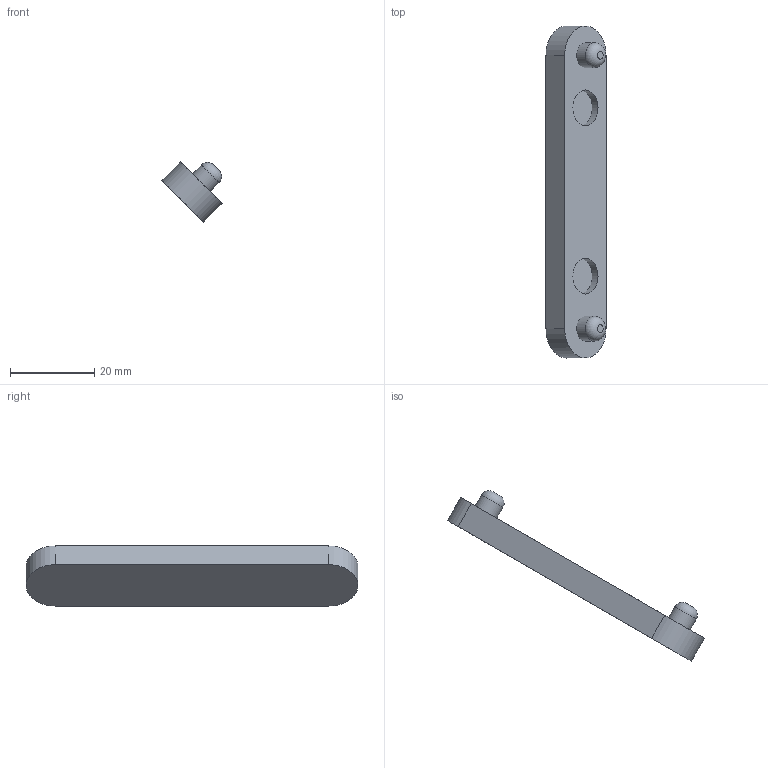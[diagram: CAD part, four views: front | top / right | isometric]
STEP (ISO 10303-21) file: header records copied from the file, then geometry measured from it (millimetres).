
FILE_DESCRIPTION (( 'STEP AP214' ), '1' );
FILE_NAME ('MONO_038-p232_02.STEP', '2026-03-24T01:37:29', ( '' ), ( '' ), 'SwSTEP 2.0', 'SolidWorks 2024', '' );
FILE_SCHEMA (( 'AUTOMOTIVE_DESIGN' ));
Length unit declared in the file: millimetre
Products named in the file (1): MONO_038-p232_02
Bounding box: 14.28 x 78.9 x 14.28 mm (x, y, z)
Volume: 6667.5 mm3; surface area: 3461.4 mm2
Topology: 1 solids, 1 shells, 16 faces, 28 edges, 18 vertices
Faces by surface type: plane 8, cylinder 6, torus 2
Full cylindrical faces by diameter (mm): 5.9 x2, 8.5 x2
Entity records: 383 total; most frequent: DIRECTION 70, CARTESIAN_POINT 57, ORIENTED_EDGE 44, AXIS2_PLACEMENT_3D 31, EDGE_LOOP 26, FACE_OUTER_BOUND 22, EDGE_CURVE 22, VERTEX_POINT 18
